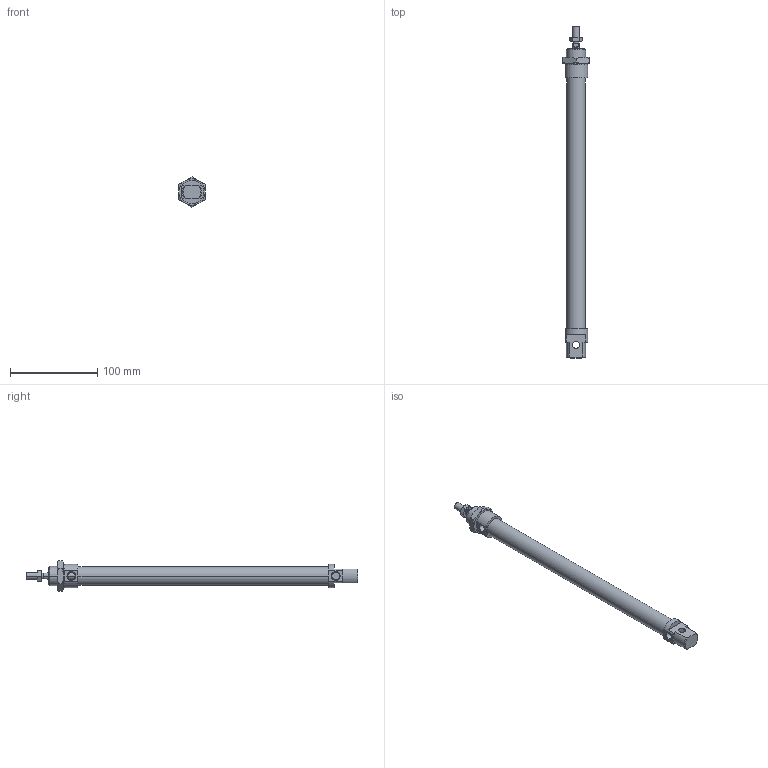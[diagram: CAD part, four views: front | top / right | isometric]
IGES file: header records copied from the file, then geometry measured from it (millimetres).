
Global section: file name: No Iges File Name specified; native system: Autodesk Inventor 2010; preprocessor: AutoDesk Inventor Iges Exporter R2010; author: rivolro1; date: 20090604.093312; units: millimetre
Bounding box: 30 x 380 x 34.64 mm (x, y, z)
Volume: 132604.1 mm3; surface area: 43748.2 mm2
Topology: 4 solids, 4 shells, 110 faces, 249 edges, 152 vertices
Faces by surface type: plane 41, cone 28, bspline 21, cylinder 14, revolution 6
